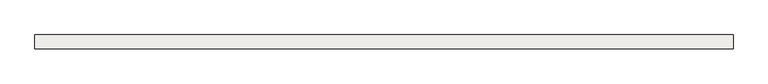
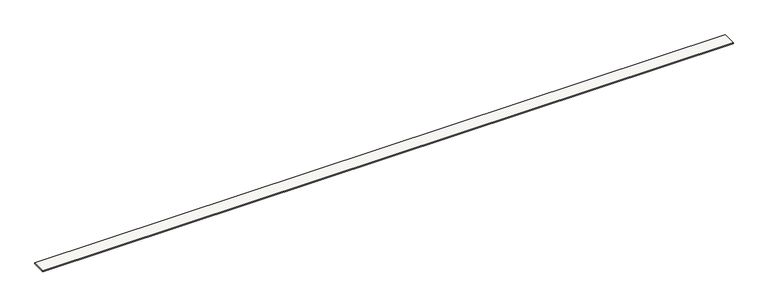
"""IFC4 building model written with IfcOpenShell, lengths in millimetres: slab geometry, Sol-02 - Tablette bois 2cm."""

import ifcopenshell
import ifcopenshell.guid

model = None  # the IFC model being written
_history = None  # IfcOwnerHistory: only IFC2X3 demands one
_inside = {}  # id of a spatial element -> (the spatial element, [elements in it])
_under = {}  # id of a project, library or spatial element -> (it, [spatial elements below it])
_declared = {}  # id of a project -> (the project, [libraries it declares])
_typed = {}  # id of a type object -> (the type object, [elements of that type])
_made_of = {}  # id of a material, layer set ... -> (it, [elements and type objects made of it])


def new_model(schema):
    """Start an empty IFC model of exactly this schema.

    Asked for "IFC4X3", IfcOpenShell would pick the latest addendum, in which some entities
    have other attributes; the version numbers below select the first issue.
    IFC2X3 requires an IfcOwnerHistory on every rooted entity: one is made here for all.
    """
    global model, _history
    if schema == "IFC4X3":
        model = ifcopenshell.file(schema_version=(4, 3, 0, 0))
    else:
        model = ifcopenshell.file(schema=schema)
    _inside.clear()
    _under.clear()
    _declared.clear()
    _typed.clear()
    _made_of.clear()
    _history = None
    if model.schema == "IFC2X3":
        org = make("IfcOrganization", Name="unknown")
        user = make(
            "IfcPersonAndOrganization",
            ThePerson=make("IfcPerson", FamilyName="unknown"),
            TheOrganization=org,
        )
        app = make(
            "IfcApplication",
            ApplicationDeveloper=org,
            Version="unknown",
            ApplicationFullName="unknown",
            ApplicationIdentifier="unknown",
        )
        _history = make(
            "IfcOwnerHistory",
            OwningUser=user,
            OwningApplication=app,
            ChangeAction="ADDED",
            CreationDate=0,
        )
    return model


def make(cls, **values):
    """One entity of the class cls with the attributes given. An attribute that is None is left unset."""
    return model.create_entity(
        cls, **{name: value for name, value in values.items() if value is not None}
    )


def rooted(cls, **values):
    """An entity with a GlobalId (a new one), such as an element, a storey or a relation."""
    return make(cls, GlobalId=ifcopenshell.guid.new(), OwnerHistory=_history, **values)


def si_unit(unit_type, name, prefix=None):
    """IfcSIUnit, for example si_unit("LENGTHUNIT", "METRE", prefix="MILLI")."""
    return make("IfcSIUnit", UnitType=unit_type, Prefix=prefix, Name=name)


def assignment(units):
    """IfcUnitAssignment: the units of a project."""
    return None if units is None else make("IfcUnitAssignment", Units=units)


def point(xyz):
    """IfcCartesianPoint."""
    return None if xyz is None else make("IfcCartesianPoint", Coordinates=xyz)


def direction(xyz):
    """IfcDirection."""
    return None if xyz is None else make("IfcDirection", DirectionRatios=xyz)


def frame(location, z_axis=None, x_axis=None):
    """IfcAxis2Placement3D, a coordinate frame: its origin and axes. An axis left out is left unset."""
    return make(
        "IfcAxis2Placement3D",
        Location=point(location),
        Axis=direction(z_axis),
        RefDirection=direction(x_axis),
    )


def origin():
    """The frame at (0, 0, 0) with its axes left unset."""
    return frame((0.0, 0.0, 0.0))


def origin_with_axes():
    """The frame at (0, 0, 0) with the z axis (0, 0, 1) and the x axis (1, 0, 0) written out."""
    return frame((0.0, 0.0, 0.0), z_axis=(0.0, 0.0, 1.0), x_axis=(1.0, 0.0, 0.0))


def place(relative_to, where):
    """IfcLocalPlacement: puts the frame where relative to a parent placement (None: the world)."""
    return make(
        "IfcLocalPlacement", PlacementRelTo=relative_to, RelativePlacement=where
    )


def context(
    kind, dimensions, precision=None, world=None, true_north=None, identifier=None
):
    """IfcGeometricRepresentationContext, for example the 3D "Model" context."""
    return make(
        "IfcGeometricRepresentationContext",
        ContextIdentifier=identifier,
        ContextType=kind,
        CoordinateSpaceDimension=dimensions,
        Precision=precision,
        WorldCoordinateSystem=world,
        TrueNorth=true_north,
    )


def project(units=None, contexts=None):
    """IfcProject with its units and contexts."""
    return rooted(
        "IfcProject",
        Name="project",
        RepresentationContexts=contexts,
        UnitsInContext=assignment(units),
    )


def spatial(cls, under=None, at=None, **own):
    """A site, building, storey or space (cls), placed at a placement, below another one or the project."""
    s = rooted(cls, ObjectPlacement=at, **own)
    if under is not None:
        _under.setdefault(under.id(), (under, []))[1].append(s)
    return s


def polyline(points):
    """IfcPolyline through the points."""
    return make("IfcPolyline", Points=[point(p) for p in points])


def outline(outer, holes=None, kind="AREA"):
    """IfcArbitraryClosedProfileDef: a profile drawn as a closed curve; with holes, ...WithVoids."""
    if holes is None:
        return make("IfcArbitraryClosedProfileDef", ProfileType=kind, OuterCurve=outer)
    return make(
        "IfcArbitraryProfileDefWithVoids",
        ProfileType=kind,
        OuterCurve=outer,
        InnerCurves=holes,
    )


def extrude(swept, where, along, depth):
    """IfcExtrudedAreaSolid: the profile swept, set in the frame where, extruded along a direction by depth."""
    return make(
        "IfcExtrudedAreaSolid",
        SweptArea=swept,
        Position=where,
        ExtrudedDirection=direction(along),
        Depth=depth,
    )


def shape(context_of_items, identifier, shape_type, items):
    """IfcShapeRepresentation: the items that make up one representation, for example the "Body"."""
    return make(
        "IfcShapeRepresentation",
        ContextOfItems=context_of_items,
        RepresentationIdentifier=identifier,
        RepresentationType=shape_type,
        Items=items,
    )


def source(mapping_origin, context_of_items, identifier, shape_type, items):
    """IfcRepresentationMap: a shape defined once, which mapped items show again and again."""
    return make(
        "IfcRepresentationMap",
        MappingOrigin=mapping_origin,
        MappedRepresentation=shape(context_of_items, identifier, shape_type, items),
    )


def transform(
    local_origin,
    x_axis=None,
    y_axis=None,
    z_axis=None,
    scale=None,
    scale2=None,
    scale3=None,
    uniform=True,
):
    """IfcCartesianTransformationOperator3D, or its non-uniform kind. x_axis, y_axis, z_axis: its Axis1, 2, 3."""
    if uniform:
        return make(
            "IfcCartesianTransformationOperator3D",
            Axis1=direction(x_axis),
            Axis2=direction(y_axis),
            LocalOrigin=point(local_origin),
            Scale=scale,
            Axis3=direction(z_axis),
        )
    return make(
        "IfcCartesianTransformationOperator3DnonUniform",
        Axis1=direction(x_axis),
        Axis2=direction(y_axis),
        LocalOrigin=point(local_origin),
        Scale=scale,
        Axis3=direction(z_axis),
        Scale2=scale2,
        Scale3=scale3,
    )


def mapped(mapping_source, mapping_target):
    """IfcMappedItem: shows the shape of a source again, moved by a transform."""
    return make(
        "IfcMappedItem", MappingSource=mapping_source, MappingTarget=mapping_target
    )


def made_of(thing, what):
    """Note that an element or type object is made of a material, layer set ...; save() writes the relation."""
    if what is not None:
        _made_of.setdefault(what.id(), (what, []))[1].append(thing)
    return thing


def element(
    cls,
    number,
    at=None,
    inside=None,
    cuts=None,
    type_object=None,
    material=None,
    context=None,
    identifier="Body",
    shape_type=None,
    held_by="IfcProductDefinitionShape",
    body=None,
    shapes=None,
    **own,
):
    """One element of the class cls, such as IfcWall. Its Tag is "e" and its number.

    at: its placement. inside: the storey or other place that contains it. cuts: it is an
    opening in that element (IfcRelVoidsElement). A single representation is given by context,
    identifier, shape_type and body (its items); several are given by shapes. held_by: the class
    of the entity that holds the representations. save() writes the other relations.
    """
    e = rooted(cls, Tag="e%d" % number, ObjectPlacement=at, **own)
    if body is not None:
        shapes = [shape(context, identifier, shape_type, body)]
    if shapes is not None:
        e.Representation = make(held_by, Representations=shapes)
    if inside is not None:
        _inside.setdefault(inside.id(), (inside, []))[1].append(e)
    if cuts is not None:
        rooted(
            "IfcRelVoidsElement", RelatingBuildingElement=cuts, RelatedOpeningElement=e
        )
    if type_object is not None:
        _typed.setdefault(type_object.id(), (type_object, []))[1].append(e)
    return made_of(e, material)


def aggregate(whole, parts):
    """IfcRelAggregates: a whole, such as a stair, and the parts it consists of."""
    return rooted("IfcRelAggregates", RelatingObject=whole, RelatedObjects=parts)


def save(model, path):
    """Write the relations noted so far, then the file.

    IfcRelAggregates (storeys below a building ...), IfcRelContainedInSpatialStructure (elements
    in a storey), IfcRelDefinesByType, IfcRelAssociatesMaterial and IfcRelDeclares: one each for
    every whole, place, type object, material and project.
    """
    for whole, parts in _under.values():
        aggregate(whole, parts)
    for where, things in _inside.values():
        rooted(
            "IfcRelContainedInSpatialStructure",
            RelatedElements=things,
            RelatingStructure=where,
        )
    for kind, things in _typed.values():
        rooted("IfcRelDefinesByType", RelatedObjects=things, RelatingType=kind)
    for what, things in _made_of.values():
        rooted("IfcRelAssociatesMaterial", RelatedObjects=things, RelatingMaterial=what)
    for by, libraries in _declared.values():
        rooted("IfcRelDeclares", RelatingContext=by, RelatedDefinitions=libraries)
    model.write(path)


def slab_27badeb2(model_context):
    return source(origin(), model_context, "Body", "SweptSolid", [
        extrude(outline(polyline([(31784.9999738, 11011.3446595), (15919.9999738, 11011.3446595), (15919.9999738, 11331.3446595), (31784.9999738, 11331.3446595), (31784.9999738, 11011.3446595)])), origin_with_axes(), (0.0, 0.0, 1.0), 20.0),
    ])


if __name__ == "__main__":
    model = new_model("IFC4")
    model_context = context("Model", 3, world=origin())
    ifc_project = project(units=[si_unit("LENGTHUNIT", "METRE", prefix="MILLI")], contexts=[model_context])
    site = spatial("IfcSite", under=ifc_project)
    building = spatial("IfcBuilding", under=site)
    placement = place(None, origin())
    slab_shape = slab_27badeb2(model_context)
    element("IfcSlab", 1, ObjectType="Sol-02 - Tablette bois 2cm", at=placement, inside=building, context=model_context, shape_type="MappedRepresentation", body=[
        mapped(slab_shape, transform((0.0, 0.0, 0.0), x_axis=(1.0, 0.0, 0.0), y_axis=(0.0, 1.0, 0.0), z_axis=(0.0, 0.0, 1.0))),
    ])
    save(model, "model.ifc")
